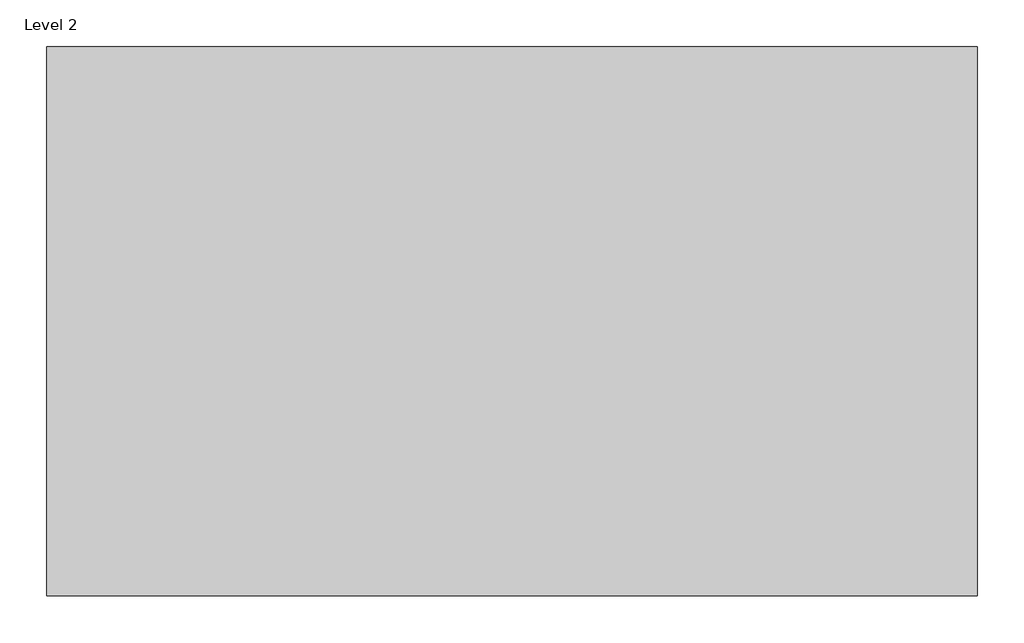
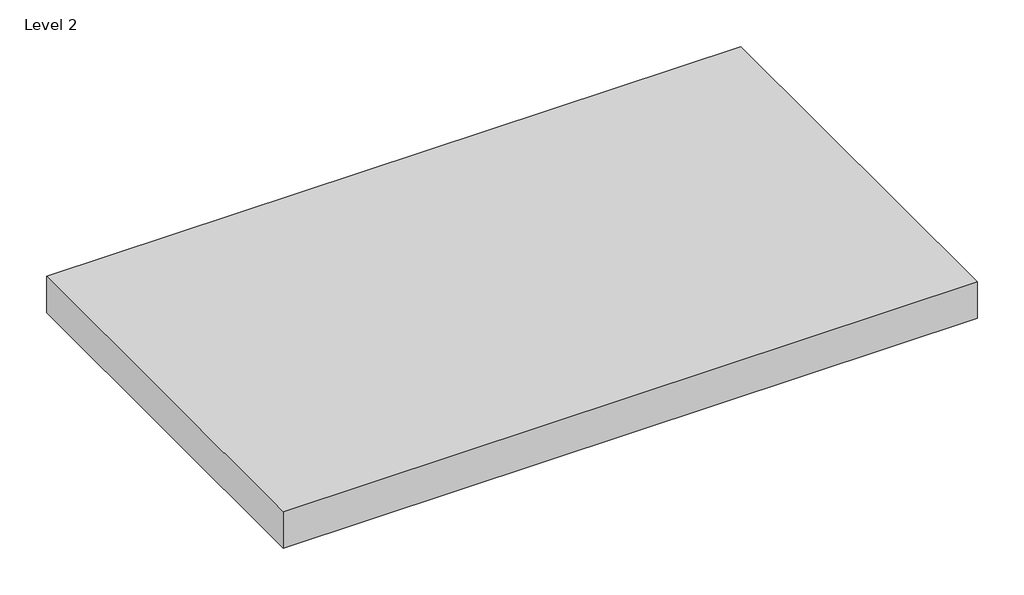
# One storey: 1 air terminal.
"""IFC4 building model written with IfcOpenShell, lengths in millimetres."""

import ifcopenshell
import ifcopenshell.guid

model = None  # the IFC model being written
_history = None  # IfcOwnerHistory: only IFC2X3 demands one
_inside = {}  # id of a spatial element -> (the spatial element, [elements in it])
_under = {}  # id of a project, library or spatial element -> (it, [spatial elements below it])
_declared = {}  # id of a project -> (the project, [libraries it declares])
_typed = {}  # id of a type object -> (the type object, [elements of that type])
_made_of = {}  # id of a material, layer set ... -> (it, [elements and type objects made of it])


def new_model(schema):
    """Start an empty IFC model of exactly this schema.

    Asked for "IFC4X3", IfcOpenShell would pick the latest addendum, in which some entities
    have other attributes; the version numbers below select the first issue.
    IFC2X3 requires an IfcOwnerHistory on every rooted entity: one is made here for all.
    """
    global model, _history
    if schema == "IFC4X3":
        model = ifcopenshell.file(schema_version=(4, 3, 0, 0))
    else:
        model = ifcopenshell.file(schema=schema)
    _inside.clear()
    _under.clear()
    _declared.clear()
    _typed.clear()
    _made_of.clear()
    _history = None
    if model.schema == "IFC2X3":
        org = make("IfcOrganization", Name="unknown")
        user = make(
            "IfcPersonAndOrganization",
            ThePerson=make("IfcPerson", FamilyName="unknown"),
            TheOrganization=org,
        )
        app = make(
            "IfcApplication",
            ApplicationDeveloper=org,
            Version="unknown",
            ApplicationFullName="unknown",
            ApplicationIdentifier="unknown",
        )
        _history = make(
            "IfcOwnerHistory",
            OwningUser=user,
            OwningApplication=app,
            ChangeAction="ADDED",
            CreationDate=0,
        )
    return model


def make(cls, **values):
    """One entity of the class cls with the attributes given. An attribute that is None is left unset."""
    return model.create_entity(
        cls, **{name: value for name, value in values.items() if value is not None}
    )


def rooted(cls, **values):
    """An entity with a GlobalId (a new one), such as an element, a storey or a relation."""
    return make(cls, GlobalId=ifcopenshell.guid.new(), OwnerHistory=_history, **values)


def si_unit(unit_type, name, prefix=None):
    """IfcSIUnit, for example si_unit("LENGTHUNIT", "METRE", prefix="MILLI")."""
    return make("IfcSIUnit", UnitType=unit_type, Prefix=prefix, Name=name)


def assignment(units):
    """IfcUnitAssignment: the units of a project."""
    return None if units is None else make("IfcUnitAssignment", Units=units)


def point(xyz):
    """IfcCartesianPoint."""
    return None if xyz is None else make("IfcCartesianPoint", Coordinates=xyz)


def direction(xyz):
    """IfcDirection."""
    return None if xyz is None else make("IfcDirection", DirectionRatios=xyz)


def frame(location, z_axis=None, x_axis=None):
    """IfcAxis2Placement3D, a coordinate frame: its origin and axes. An axis left out is left unset."""
    return make(
        "IfcAxis2Placement3D",
        Location=point(location),
        Axis=direction(z_axis),
        RefDirection=direction(x_axis),
    )


def origin():
    """The frame at (0, 0, 0) with its axes left unset."""
    return frame((0.0, 0.0, 0.0))


def place(relative_to, where):
    """IfcLocalPlacement: puts the frame where relative to a parent placement (None: the world)."""
    return make(
        "IfcLocalPlacement", PlacementRelTo=relative_to, RelativePlacement=where
    )


def context(
    kind, dimensions, precision=None, world=None, true_north=None, identifier=None
):
    """IfcGeometricRepresentationContext, for example the 3D "Model" context."""
    return make(
        "IfcGeometricRepresentationContext",
        ContextIdentifier=identifier,
        ContextType=kind,
        CoordinateSpaceDimension=dimensions,
        Precision=precision,
        WorldCoordinateSystem=world,
        TrueNorth=true_north,
    )


def project(units=None, contexts=None):
    """IfcProject with its units and contexts."""
    return rooted(
        "IfcProject",
        Name="project",
        RepresentationContexts=contexts,
        UnitsInContext=assignment(units),
    )


def spatial(cls, under=None, at=None, **own):
    """A site, building, storey or space (cls), placed at a placement, below another one or the project."""
    s = rooted(cls, ObjectPlacement=at, **own)
    if under is not None:
        _under.setdefault(under.id(), (under, []))[1].append(s)
    return s


def polyline(points):
    """IfcPolyline through the points."""
    return make("IfcPolyline", Points=[point(p) for p in points])


def outline(outer, holes=None, kind="AREA"):
    """IfcArbitraryClosedProfileDef: a profile drawn as a closed curve; with holes, ...WithVoids."""
    if holes is None:
        return make("IfcArbitraryClosedProfileDef", ProfileType=kind, OuterCurve=outer)
    return make(
        "IfcArbitraryProfileDefWithVoids",
        ProfileType=kind,
        OuterCurve=outer,
        InnerCurves=holes,
    )


def extrude(swept, where, along, depth):
    """IfcExtrudedAreaSolid: the profile swept, set in the frame where, extruded along a direction by depth."""
    return make(
        "IfcExtrudedAreaSolid",
        SweptArea=swept,
        Position=where,
        ExtrudedDirection=direction(along),
        Depth=depth,
    )


def shape(context_of_items, identifier, shape_type, items):
    """IfcShapeRepresentation: the items that make up one representation, for example the "Body"."""
    return make(
        "IfcShapeRepresentation",
        ContextOfItems=context_of_items,
        RepresentationIdentifier=identifier,
        RepresentationType=shape_type,
        Items=items,
    )


def source(mapping_origin, context_of_items, identifier, shape_type, items):
    """IfcRepresentationMap: a shape defined once, which mapped items show again and again."""
    return make(
        "IfcRepresentationMap",
        MappingOrigin=mapping_origin,
        MappedRepresentation=shape(context_of_items, identifier, shape_type, items),
    )


def transform(
    local_origin,
    x_axis=None,
    y_axis=None,
    z_axis=None,
    scale=None,
    scale2=None,
    scale3=None,
    uniform=True,
):
    """IfcCartesianTransformationOperator3D, or its non-uniform kind. x_axis, y_axis, z_axis: its Axis1, 2, 3."""
    if uniform:
        return make(
            "IfcCartesianTransformationOperator3D",
            Axis1=direction(x_axis),
            Axis2=direction(y_axis),
            LocalOrigin=point(local_origin),
            Scale=scale,
            Axis3=direction(z_axis),
        )
    return make(
        "IfcCartesianTransformationOperator3DnonUniform",
        Axis1=direction(x_axis),
        Axis2=direction(y_axis),
        LocalOrigin=point(local_origin),
        Scale=scale,
        Axis3=direction(z_axis),
        Scale2=scale2,
        Scale3=scale3,
    )


def mapped(mapping_source, mapping_target):
    """IfcMappedItem: shows the shape of a source again, moved by a transform."""
    return make(
        "IfcMappedItem", MappingSource=mapping_source, MappingTarget=mapping_target
    )


def made_of(thing, what):
    """Note that an element or type object is made of a material, layer set ...; save() writes the relation."""
    if what is not None:
        _made_of.setdefault(what.id(), (what, []))[1].append(thing)
    return thing


def element(
    cls,
    number,
    at=None,
    inside=None,
    cuts=None,
    type_object=None,
    material=None,
    context=None,
    identifier="Body",
    shape_type=None,
    held_by="IfcProductDefinitionShape",
    body=None,
    shapes=None,
    **own,
):
    """One element of the class cls, such as IfcWall. Its Tag is "e" and its number.

    at: its placement. inside: the storey or other place that contains it. cuts: it is an
    opening in that element (IfcRelVoidsElement). A single representation is given by context,
    identifier, shape_type and body (its items); several are given by shapes. held_by: the class
    of the entity that holds the representations. save() writes the other relations.
    """
    e = rooted(cls, Tag="e%d" % number, ObjectPlacement=at, **own)
    if body is not None:
        shapes = [shape(context, identifier, shape_type, body)]
    if shapes is not None:
        e.Representation = make(held_by, Representations=shapes)
    if inside is not None:
        _inside.setdefault(inside.id(), (inside, []))[1].append(e)
    if cuts is not None:
        rooted(
            "IfcRelVoidsElement", RelatingBuildingElement=cuts, RelatedOpeningElement=e
        )
    if type_object is not None:
        _typed.setdefault(type_object.id(), (type_object, []))[1].append(e)
    return made_of(e, material)


def aggregate(whole, parts):
    """IfcRelAggregates: a whole, such as a stair, and the parts it consists of."""
    return rooted("IfcRelAggregates", RelatingObject=whole, RelatedObjects=parts)


def save(model, path):
    """Write the relations noted so far, then the file.

    IfcRelAggregates (storeys below a building ...), IfcRelContainedInSpatialStructure (elements
    in a storey), IfcRelDefinesByType, IfcRelAssociatesMaterial and IfcRelDeclares: one each for
    every whole, place, type object, material and project.
    """
    for whole, parts in _under.values():
        aggregate(whole, parts)
    for where, things in _inside.values():
        rooted(
            "IfcRelContainedInSpatialStructure",
            RelatedElements=things,
            RelatingStructure=where,
        )
    for kind, things in _typed.values():
        rooted("IfcRelDefinesByType", RelatedObjects=things, RelatingType=kind)
    for what, things in _made_of.values():
        rooted("IfcRelAssociatesMaterial", RelatedObjects=things, RelatingMaterial=what)
    for by, libraries in _declared.values():
        rooted("IfcRelDeclares", RelatingContext=by, RelatedDefinitions=libraries)
    model.write(path)


def air_terminals_1_air_terminals_1_f5a92605(model_context):
    return source(origin(), model_context, "Body", "SweptSolid", [
        extrude(outline(polyline([(1833.1973575, 613.9879552), (1833.1973575, 1963.1766815), (4119.1973575, 1963.1766815), (4119.1973575, 613.9879552), (1833.1973575, 613.9879552)])), frame((0.0, 0.0, 3138.9418302), z_axis=(0.0, 0.0, 1.0), x_axis=(1.0, 0.0, 0.0)), (0.0, 0.0, 1.0), 127.0),
    ])


model = new_model("IFC4")

# Units and contexts
model_context = context("Model", 3, world=origin())
ifc_project = project(units=[si_unit("LENGTHUNIT", "METRE", prefix="MILLI")], contexts=[model_context])

# Site, building, storey
site = spatial("IfcSite", under=ifc_project)
building = spatial("IfcBuilding", under=site)
storey = spatial("IfcBuildingStorey", under=building, Name="Level 2", Elevation=3048.0)

# Air terminal
placement = place(None, origin())
air_terminals_1_air_terminals_1_shape = air_terminals_1_air_terminals_1_f5a92605(model_context)
element("IfcAirTerminal", 1, ObjectType="Air Terminals 1 : Air Terminals 1", at=placement, inside=storey, context=model_context, shape_type="MappedRepresentation", body=[
    mapped(air_terminals_1_air_terminals_1_shape, transform((0.0, 0.0, 0.0), x_axis=(1.0, 0.0, 0.0), y_axis=(0.0, 1.0, 0.0), z_axis=(0.0, 0.0, 1.0))),
])

save(model, "model.ifc")
